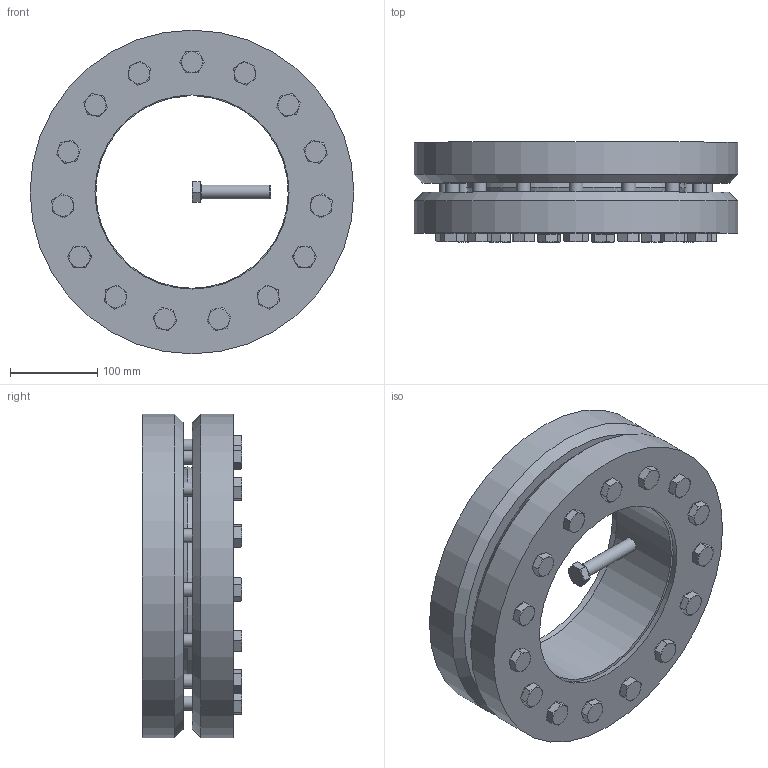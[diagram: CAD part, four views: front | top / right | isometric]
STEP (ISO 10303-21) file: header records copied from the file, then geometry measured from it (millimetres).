
FILE_DESCRIPTION( ( 'Unknown' ), '1' );
FILE_NAME( 'C:/Dokumente und Einstellungen/Sven/Desktop/homepage/cad - homepage/KBS19/KBS 19 - 220 x 370.stp', 'Unknown', ( 'Unknown' ), ( 'Unknown' ), 'XStep 1.0', 'Unknown', ' ' );
FILE_SCHEMA( ( 'automotive_design' ) );
Length unit declared in the file: millimetre
Products named in the file (3): Assem1; KBS 19 - 220 x 370; ISO 4017 - M16 x 80-N
Bounding box: 370 x 114 x 370 mm (x, y, z)
Volume: 12714432.2 mm3; surface area: 1086374.3 mm2
Topology: 18 solids, 18 shells, 506 faces, 1184 edges, 730 vertices
Faces by surface type: plane 268, cone 124, cylinder 98, torus 16
Full cylindrical faces by diameter (mm): 16 x76, 24 x16, 370 x4
Entity records: 2862 total; most frequent: CARTESIAN_POINT 442, DIRECTION 424, ORIENTED_EDGE 308, AXIS2_PLACEMENT_3D 191, EDGE_LOOP 183, EDGE_CURVE 154, VERTEX_POINT 121, FACE_OUTER_BOUND 113
